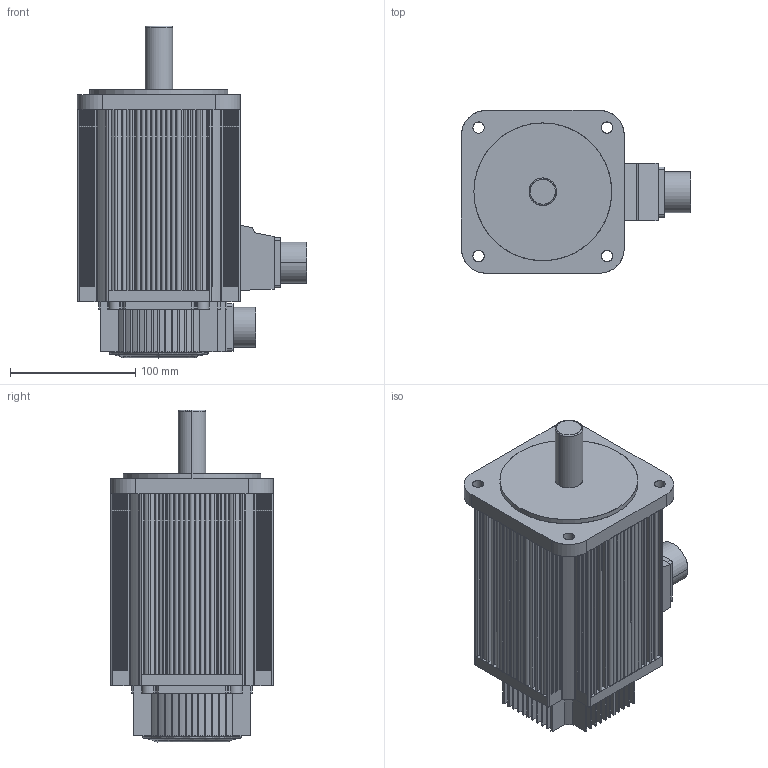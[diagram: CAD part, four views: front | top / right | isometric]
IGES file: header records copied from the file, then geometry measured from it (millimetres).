
Start section: SolidWorks IGES file using analytic representation for surfaces
Bounding box: 183 x 130 x 265 mm (x, y, z)
Surface area: 224982.5 mm2 (no closed solid volume)
Topology: 0 solids, 0 shells, 886 faces, 9395 edges, 9387 vertices
Faces by surface type: bspline 537, revolution 349
